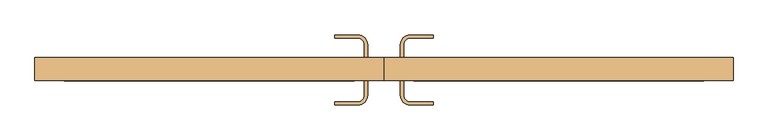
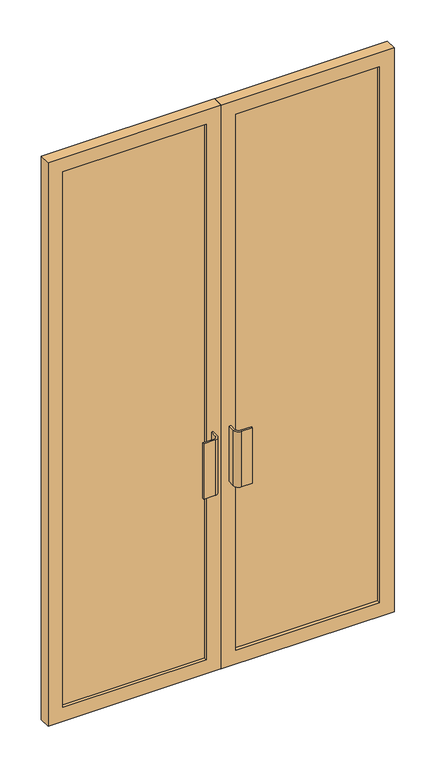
"""IFC4 building model written with IfcOpenShell, lengths in millimetres: door geometry, Дверь-Витраж-Двойная-Витрина : Дверь-Витраж-Двойная-Витрина."""

from ifc_helpers import new_model, si_unit, point, frame, frame_2d, origin, place, context, project, spatial, polyline, circle_curve, trimmed, segment, composite_curve, outline, extrude, source, transform, mapped, element, save


def door_13e61a2d(model_context):
    return source(origin(), model_context, "Body", "SweptSolid", [
        extrude(outline(polyline([(2325.0, 0.8168501), (0.0, 0.8168501), (0.0, 675.0), (2325.0, 675.0), (2325.0, 0.8168501)]), holes=[polyline([(2267.85, 57.9668501), (2267.85, 617.85), (57.15, 617.85), (57.15, 57.9668501), (2267.85, 57.9668501)])]), frame((0.0, 15.55, 0.0), z_axis=(0.0, 1.0, 0.0), x_axis=(0.0, 0.0, 1.0)), (0.0, 0.0, 1.0), 44.45),
        extrude(outline(polyline([(2325.0, -0.7706499), (2325.0, -675.0), (0.0, -675.0), (0.0, -0.7706499), (2325.0, -0.7706499)]), holes=[polyline([(2267.85, -617.85), (2267.85, -57.9206499), (57.15, -57.9206499), (57.15, -617.85), (2267.85, -617.85)])]), frame((0.0, 15.55, 0.0), z_axis=(0.0, 1.0, 0.0), x_axis=(0.0, 0.0, 1.0)), (0.0, 0.0, 1.0), 44.45),
        extrude(outline(polyline([(617.85, 28.25), (57.9668501, 28.25), (57.9668501, 47.3), (617.85, 47.3), (617.85, 28.25)])), frame((0.0, 0.0, 57.15), z_axis=(0.0, 0.0, 1.0), x_axis=(1.0, 0.0, 0.0)), (0.0, 0.0, 1.0), 2210.7),
        extrude(outline(polyline([(-57.9206499, 28.25), (-617.85, 28.25), (-617.85, 47.3), (-57.9206499, 47.3), (-57.9206499, 28.25)])), frame((0.0, 0.0, 57.15), z_axis=(0.0, 0.0, 1.0), x_axis=(1.0, 0.0, 0.0)), (0.0, 0.0, 1.0), 2210.7),
        extrude(outline(composite_curve([segment(trimmed(circle_curve(frame_2d((-50.7768999, -12.7)), 19.05), [point((-31.7268999, -12.7))], [point((-50.7768999, -31.75))], False, "CARTESIAN"), True, "CONTINUOUS"), segment(polyline([(-50.7768999, -31.75), (-95.2268999, -31.75), (-95.2268999, -25.4), (-50.7768999, -25.4)]), True, "CONTINUOUS"), segment(trimmed(circle_curve(frame_2d((-50.7768999, -12.7)), 12.7), [point((-50.7768999, -25.4))], [point((-38.0768999, -12.7))], True, "CARTESIAN"), True, "CONTINUOUS"), segment(polyline([(-38.0768999, -12.7), (-38.0768999, 15.55), (-31.7268999, 15.55), (-31.7268999, -12.7)]), True, "CONTINUOUS")], self_intersect=False)), frame((0.0, 0.0, 762.0), z_axis=(0.0, 0.0, 1.0), x_axis=(1.0, 0.0, 0.0)), (0.0, 0.0, 1.0), 228.6),
        extrude(outline(composite_curve([segment(polyline([(31.7731001, -12.7), (31.7731001, 15.55), (38.1231001, 15.55), (38.1231001, -12.7)]), True, "CONTINUOUS"), segment(trimmed(circle_curve(frame_2d((50.8231001, -12.7)), 12.7), [point((38.1231001, -12.7))], [point((50.8231001, -25.4))], True, "CARTESIAN"), True, "CONTINUOUS"), segment(polyline([(50.8231001, -25.4), (95.2731001, -25.4), (95.2731001, -31.75), (50.8231001, -31.75)]), True, "CONTINUOUS"), segment(trimmed(circle_curve(frame_2d((50.8231001, -12.7)), 19.05), [point((50.8231001, -31.75))], [point((31.7731001, -12.7))], False, "CARTESIAN"), True, "CONTINUOUS")], self_intersect=False)), frame((0.0, 0.0, 762.0), z_axis=(0.0, 0.0, 1.0), x_axis=(1.0, 0.0, 0.0)), (0.0, 0.0, 1.0), 228.6),
        extrude(outline(composite_curve([segment(polyline([(-31.7268999, 85.4), (-31.7268999, 60.0), (-38.0768999, 60.0), (-38.0768999, 85.4)]), True, "CONTINUOUS"), segment(trimmed(circle_curve(frame_2d((-50.7768999, 85.4)), 12.7), [point((-38.0768999, 85.4))], [point((-50.7768999, 98.1))], True, "CARTESIAN"), True, "CONTINUOUS"), segment(polyline([(-50.7768999, 98.1), (-95.2268999, 98.1), (-95.2268999, 104.45), (-50.7768999, 104.45)]), True, "CONTINUOUS"), segment(trimmed(circle_curve(frame_2d((-50.7768999, 85.4)), 19.05), [point((-50.7768999, 104.45))], [point((-31.7268999, 85.4))], False, "CARTESIAN"), True, "CONTINUOUS")], self_intersect=False)), frame((0.0, 0.0, 762.0), z_axis=(0.0, 0.0, 1.0), x_axis=(1.0, 0.0, 0.0)), (0.0, 0.0, 1.0), 228.6),
        extrude(outline(composite_curve([segment(trimmed(circle_curve(frame_2d((50.8231001, 85.4)), 19.05), [point((31.7731001, 85.4))], [point((50.8231001, 104.45))], False, "CARTESIAN"), True, "CONTINUOUS"), segment(polyline([(50.8231001, 104.45), (95.2731001, 104.45), (95.2731001, 98.1), (50.8231001, 98.1)]), True, "CONTINUOUS"), segment(trimmed(circle_curve(frame_2d((50.8231001, 85.4)), 12.7), [point((50.8231001, 98.1))], [point((38.1231001, 85.4))], True, "CARTESIAN"), True, "CONTINUOUS"), segment(polyline([(38.1231001, 85.4), (38.1231001, 60.0), (31.7731001, 60.0), (31.7731001, 85.4)]), True, "CONTINUOUS")], self_intersect=False)), frame((0.0, 0.0, 762.0), z_axis=(0.0, 0.0, 1.0), x_axis=(1.0, 0.0, 0.0)), (0.0, 0.0, 1.0), 228.6),
    ])


if __name__ == "__main__":
    model = new_model("IFC4")
    model_context = context("Model", 3, world=origin())
    ifc_project = project(units=[si_unit("LENGTHUNIT", "METRE", prefix="MILLI")], contexts=[model_context])
    site = spatial("IfcSite", under=ifc_project)
    building = spatial("IfcBuilding", under=site)
    placement = place(None, origin())
    door_shape = door_13e61a2d(model_context)
    element("IfcDoor", 1, ObjectType="Дверь-Витраж-Двойная-Витрина : Дверь-Витраж-Двойная-Витрина", at=placement, inside=building, context=model_context, shape_type="MappedRepresentation", body=[
        mapped(door_shape, transform((0.0, 0.0, 0.0), x_axis=(1.0, 0.0, 0.0), y_axis=(0.0, 1.0, 0.0), z_axis=(0.0, 0.0, 1.0))),
    ])
    save(model, "model.ifc")
